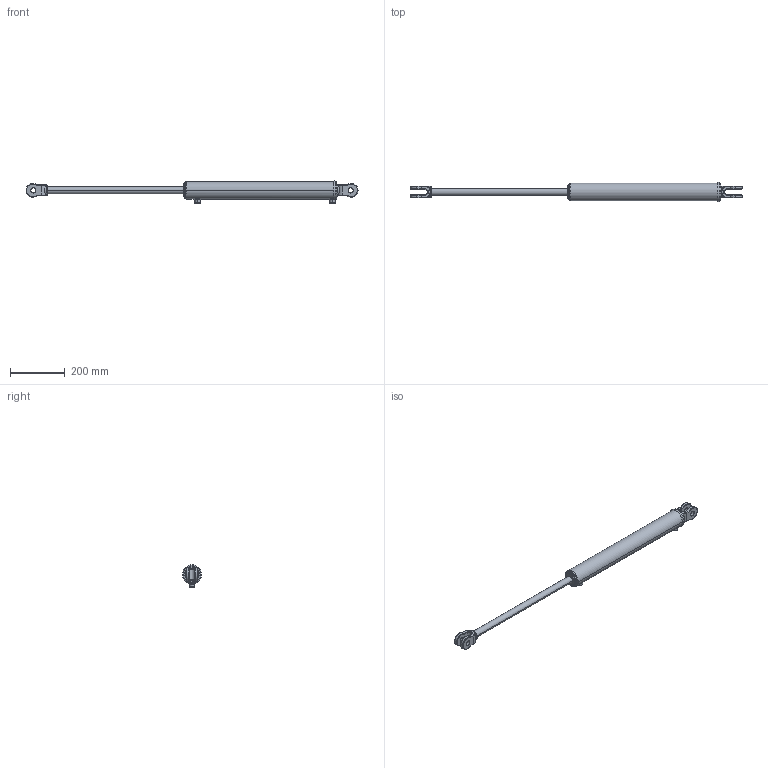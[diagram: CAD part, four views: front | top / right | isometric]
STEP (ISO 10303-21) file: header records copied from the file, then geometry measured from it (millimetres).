
FILE_DESCRIPTION (( 'STEP AP203' ), '1' );
FILE_NAME ('CL-CL200100x457 (18) extended.STEP', '2014-11-20T22:02:18', ( '' ), ( '' ), 'SwSTEP 2.0', 'SolidWorks 2014', '' );
FILE_SCHEMA (( 'CONFIG_CONTROL_DESIGN' ));
Length unit declared in the file: millimetre
Products named in the file (5): CL-CL150075x457 (18) BODY; 2 inch ext circlip; CL-CL200100x457 (18) BODY; 18 SPARE; CL-CL200100x457 (18) extended
Assembly tree (4 placements, depth 3):
  CL-CL200100x457 (18) extended
    CL-CL200100x457 (18) BODY
      CL-CL150075x457 (18) BODY
      2 inch ext circlip
    18 SPARE
Bounding box: 1208.41 x 69.5 x 81.5 mm (x, y, z)
Volume: 2124369.1 mm3; surface area: 212790.7 mm2
Topology: 3 solids, 3 shells, 284 faces, 701 edges, 419 vertices
Faces by surface type: bspline 117, cylinder 108, plane 37, torus 14, cone 8
Entity records: 24865 total; most frequent: CARTESIAN_POINT 18431, ORIENTED_EDGE 1370, DIRECTION 1046, EDGE_CURVE 685, AXIS2_PLACEMENT_3D 435, VERTEX_POINT 419, EDGE_LOOP 308, ADVANCED_FACE 284
